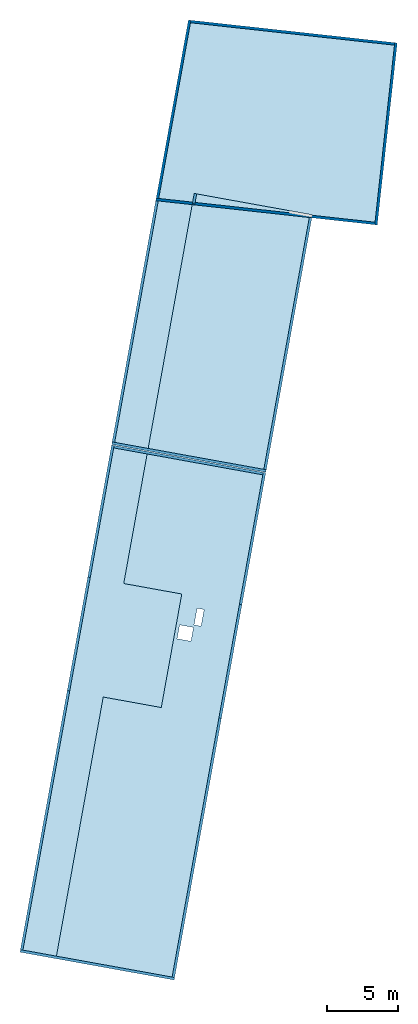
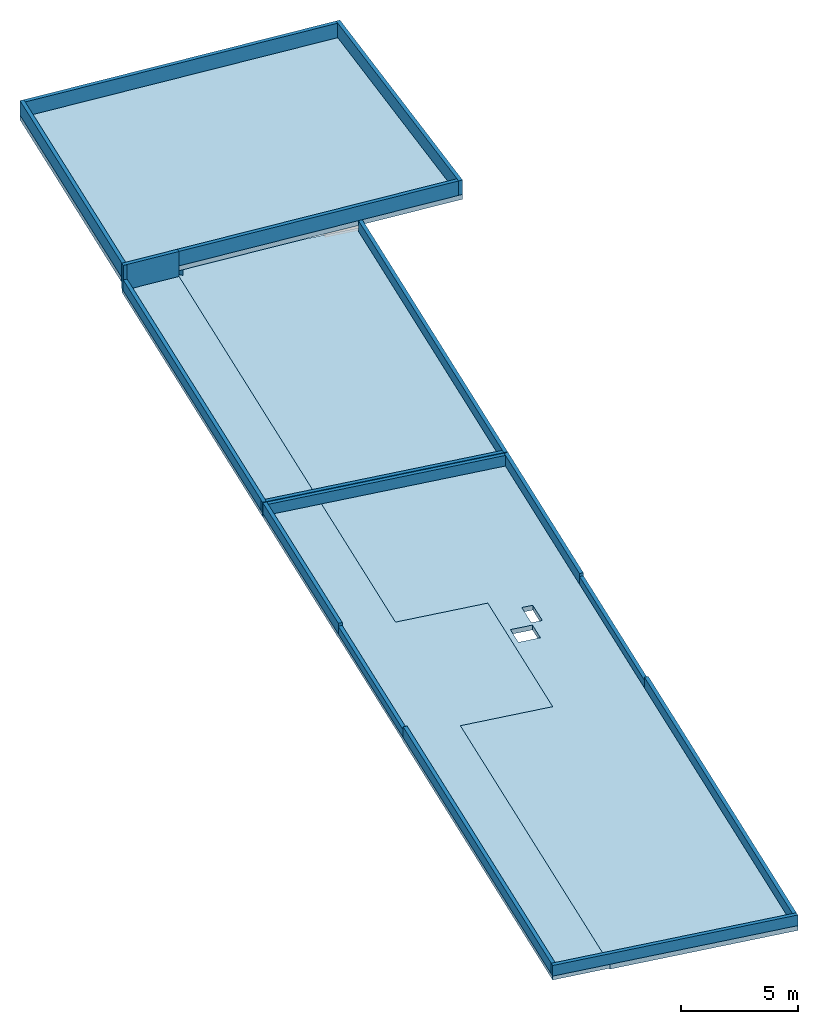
# One storey, part 1 of 2: 17 walls, 5 slabs.
"""IFC2X3 building model written with IfcOpenShell, lengths in metres."""

from ifc_helpers import new_model, entity, si_unit, converted_unit, derived_unit, money_unit, direction, frame, origin_with_axes, place, context, subcontext, project, spatial, polyline, outline, extrude, material, layer, layer_set, layer_usage, type_object, element, save


model = new_model("IFC2X3")

# Units and contexts
model_context = context("Model", 3, precision=1e-05, world=origin_with_axes(), true_north=direction((0.0, 1.0)))
body_context = subcontext(model_context, "Body", "Model", "MODEL_VIEW")
ifc_project = project(units=[si_unit("LENGTHUNIT", "METRE"), si_unit("AREAUNIT", "SQUARE_METRE"), si_unit("VOLUMEUNIT", "CUBIC_METRE"), converted_unit("PLANEANGLEUNIT", "DEGREE", entity("IfcPlaneAngleMeasure", 0.0174532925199), si_unit("PLANEANGLEUNIT", "RADIAN"), dimensions=[0, 0, 0, 0, 0, 0, 0]), money_unit("CHF"), converted_unit("TIMEUNIT", "Year", entity("IfcTimeMeasure", 31556926.0), si_unit("TIMEUNIT", "SECOND"), dimensions=[0, 0, 1, 0, 0, 0, 0]), si_unit("MASSUNIT", "GRAM", prefix="KILO"), si_unit("THERMODYNAMICTEMPERATUREUNIT", "DEGREE_CELSIUS"), si_unit("LUMINOUSINTENSITYUNIT", "LUMEN"), si_unit("ENERGYUNIT", "JOULE", prefix="MEGA"), derived_unit("THERMALCONDUCTANCEUNIT", [(si_unit("POWERUNIT", "WATT"), 1), (si_unit("LENGTHUNIT", "METRE"), -1), (si_unit("THERMODYNAMICTEMPERATUREUNIT", "KELVIN"), -1)]), derived_unit("SPECIFICHEATCAPACITYUNIT", [(si_unit("ENERGYUNIT", "JOULE"), 1), (si_unit("MASSUNIT", "GRAM", prefix="KILO"), -1), (si_unit("THERMODYNAMICTEMPERATUREUNIT", "KELVIN"), -1)]), derived_unit("MASSDENSITYUNIT", [(si_unit("MASSUNIT", "GRAM", prefix="KILO"), 1), (si_unit("VOLUMEUNIT", "CUBIC_METRE"), -1)])], contexts=[model_context])

# Site, building, storey
site_placement = place(None, frame((0.0, 0.0, 0.0), z_axis=(0.0, 0.0, 1.0), x_axis=(-0.177771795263, -0.984071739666, 0.0)))
site = spatial("IfcSite", under=ifc_project, at=site_placement, Name="Site", CompositionType="ELEMENT")
building_placement = place(site_placement, origin_with_axes())
building = spatial("IfcBuilding", under=site, at=building_placement, Name="Bâtiment", CompositionType="ELEMENT")
storey_placement = place(building_placement, frame((0.0, 0.0, 6.55), z_axis=(0.0, 0.0, 1.0), x_axis=(1.0, 0.0, 0.0)))
storey = spatial("IfcBuildingStorey", under=building, at=storey_placement, Name="Toit & PM", CompositionType="ELEMENT", Elevation=6.55)

# Slabs
ifc_material_1 = material(Name="_BA banché RAL9007")
ifc_layer_1 = layer(ifc_material_1, 0.25, ventilated="UNKNOWN")
ifc_layer_set_1 = layer_set([ifc_layer_1], Name="_BA banché RAL9007 0.25")
ifc_layer_usage_1 = layer_usage(ifc_layer_set_1, "AXIS3", "NEGATIVE", 0.25)
slab_type_1 = type_object("IfcSlabType", Name="_DalleToit 25+28 gris 530", PredefinedType="FLOOR")
slab_1_placement = place(storey_placement, frame((128.46484123, -156.627151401, -0.25), z_axis=(0.0, 0.0, 1.0), x_axis=(1.0, 0.0, 0.0)))
element("IfcSlab", 1, at=slab_1_placement, inside=storey, type_object=slab_type_1, material=ifc_layer_usage_1, Name="dalle-toiture", PredefinedType="FLOOR", context=body_context, shape_type="SweptSolid", body=[
    extrude(outline(polyline([(0.0, 0.0), (0.0, 8.51000072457), (-18.5400000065, 8.5099999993), (-18.5400000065, -6.99998281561e-10), (0.0, 0.0)])), frame((0.0, 0.0, -0.25), z_axis=(0.0, 0.0, 1.0), x_axis=(1.0, 0.0, 0.0)), (0.0, 0.0, 1.0), 0.25),
])
ifc_layer_usage_2 = layer_usage(ifc_layer_set_1, "AXIS3", "NEGATIVE", 0.25)
slab_2_placement = place(storey_placement, frame((138.014841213, -148.127150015, -0.25), z_axis=(0.0, 0.0, 1.0), x_axis=(1.0, 0.0, 0.0)))
element("IfcSlab", 2, at=slab_2_placement, inside=storey, type_object=slab_type_1, material=ifc_layer_usage_2, Name="dalle-toiture", PredefinedType="FLOOR", context=body_context, shape_type="SweptSolid", body=[
    extrude(outline(polyline([(0.0, 0.0), (0.0, 0.00999945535), (-9.51000004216, 0.00999929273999), (-9.51000004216, -8.50000138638), (-1.29869988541e-07, -8.50000138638), (1.33659995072e-07, -4.32001826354), (8.17500001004, -4.31997820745), (8.17500001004, -8.50000291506), (27.014999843, -8.50000291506), (27.014999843, 0.00999991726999), (8.17500001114, 0.00999959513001), (8.17500001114, 0.0), (0.0, 0.0)]), holes=[polyline([(2.00000001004, -2.57000120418), (2.00000001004, -3.07000120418), (0.80000001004, -3.07000144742), (0.80000001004, -2.57000144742), (2.00000001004, -2.57000120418)]), polyline([(2.17999917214, -4.08000100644), (2.17999917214, -3.08000100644), (3.17999917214, -3.08000100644), (3.17999917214, -4.08000100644), (2.17999917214, -4.08000100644)])]), frame((0.0, 0.0, -0.25), z_axis=(0.0, 0.0, 1.0), x_axis=(1.0, 0.0, 0.0)), (0.0, 0.0, 1.0), 0.25),
])
ifc_layer_usage_3 = layer_usage(ifc_layer_set_1, "AXIS3", "NEGATIVE", 0.25)
slab_3_placement = place(storey_placement, frame((96.8689778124, -144.362338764, 0.3), z_axis=(0.0, 0.0, 1.0), x_axis=(1.0, 0.0, 0.0)))
element("IfcSlab", 3, at=slab_3_placement, inside=storey, type_object=slab_type_1, material=ifc_layer_usage_3, Name="dalle-toiture", PredefinedType="FLOOR", context=body_context, shape_type="SweptSolid", body=[
    extrude(outline(polyline([(0.0, 0.0), (1.03137843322, -14.8547680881), (14.0420504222, -14.8547681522), (13.2713716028, -3.75481229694), (12.9482531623, 0.899007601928), (0.0, 0.0)])), frame((0.0, 0.0, -0.25), z_axis=(0.0, 0.0, 1.0), x_axis=(1.0, 0.0, 0.0)), (0.0, 0.0, 1.0), 0.25),
])
ifc_layer_2 = layer(ifc_material_1, 0.2, ventilated="UNKNOWN")
ifc_layer_set_2 = layer_set([ifc_layer_2], Name="_BA banché RAL9007 0.2")
ifc_layer_usage_4 = layer_usage(ifc_layer_set_2, "AXIS3", "NEGATIVE", 0.2)
slab_type_2 = type_object("IfcSlabType", Name="_DalleToit 20+28 gris 480", PredefinedType="FLOOR")
slab_4_placement = place(storey_placement, frame((138.014841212, -159.217107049, -0.25), z_axis=(0.0, 0.0, 1.0), x_axis=(1.0, 0.0, 0.0)))
element("IfcSlab", 4, at=slab_4_placement, inside=storey, type_object=slab_type_2, material=ifc_layer_usage_4, Name="Dalle-toiture", PredefinedType="FLOOR", context=body_context, shape_type="SweptSolid", body=[
    extrude(outline(polyline([(0.0, 0.0), (0.0, 0.00999999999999), (8.17500001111, 0.00999999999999), (8.17500001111, 0.0), (27.0149998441, 0.0), (27.0149998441, 2.58995411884), (8.17500001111, 2.58995411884), (8.17500001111, 6.76993877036), (1.56740327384e-08, 6.76993813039), (1.1110472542e-08, 2.58995564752), (-9.51000000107, 2.58993802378), (-9.50999998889, 0.0), (0.0, 0.0)])), frame((0.0, 0.0, -0.2), z_axis=(0.0, 0.0, 1.0), x_axis=(1.0, 0.0, 0.0)), (0.0, 0.0, 1.0), 0.2),
])
ifc_layer_usage_5 = layer_usage(ifc_layer_set_2, "AXIS3", "NEGATIVE", 0.2)
slab_5_placement = place(storey_placement, frame((110.550772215, -156.627151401, -0.25), z_axis=(0.0, 0.0, 1.0), x_axis=(1.0, 0.0, 0.0)))
element("IfcSlab", 5, at=slab_5_placement, inside=storey, type_object=slab_type_2, material=ifc_layer_usage_5, Name="dalle-toiture", PredefinedType="FLOOR", context=body_context, shape_type="SweptSolid", body=[
    extrude(outline(polyline([(0.0, 0.0), (0.179822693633, -2.58995564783), (0.360256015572, -2.58995564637), (17.9140690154, -2.58995560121), (17.9140690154, 6.77033540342e-10), (0.0, 0.0)])), frame((0.0, 0.0, -0.2), z_axis=(0.0, 0.0, 1.0), x_axis=(1.0, 0.0, 0.0)), (0.0, 0.0, 1.0), 0.2),
])

# Walls
ifc_layer_3 = layer(ifc_material_1, 0.18, ventilated="UNKNOWN")
ifc_layer_set_3 = layer_set([ifc_layer_3], Name="_BA banché RAL9007 0.18")
ifc_layer_usage_6 = layer_usage(ifc_layer_set_3, "AXIS2", "POSITIVE", -0.18)
wall_type_1 = type_object("IfcWallType", Name="_BA banché RAL9007 180", PredefinedType="NOTDEFINED")
wall_1_placement = place(storey_placement, frame((110.73120555, -156.627151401, -0.25), z_axis=(0.0, 0.0, 1.0), x_axis=(-1.0, 0.0, 0.0)))
element("IfcWallStandardCase", 6, at=wall_1_placement, inside=storey, type_object=wall_type_1, material=ifc_layer_usage_6, Name="M acrot -classe", context=body_context, shape_type="SweptSolid", body=[
    extrude(outline(polyline([(0.0124975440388, -0.18), (0.806364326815, -0.18), (0.806364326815, 0.0), (0.1805476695, 0.0), (0.0124975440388, -0.18)])), origin_with_axes(), (0.0, 0.0, 1.0), 0.3),
])
wall_type_2 = type_object("IfcWallType", Name="_acrotere 230 x 570", PredefinedType="NOTDEFINED")
wall_2_placement = place(storey_placement, frame((165.029841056, -159.217107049, -0.25), z_axis=(0.0, 0.0, 1.0), x_axis=(-1.0, 0.0, 0.0)))
element("IfcWall", 7, at=wall_2_placement, inside=storey, type_object=wall_type_2, material=ifc_material_1, Name="M acrot -classe", context=body_context, shape_type="SweptSolid", body=[
    extrude(outline(polyline([(-0.180114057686, 0.512613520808), (-0.180114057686, 0.0), (0.0, 0.0), (0.0, 0.512613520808), (0.0, 0.532613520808), (0.0, 0.552613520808), (-0.180114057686, 0.552613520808), (-0.180114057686, 0.532613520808), (-0.180114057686, 0.512613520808)])), frame((0.0, 0.0, 0.0), z_axis=(1.0, 0.0, 0.0), x_axis=(0.0, 1.0, 0.0)), (0.0, 0.0, 1.0), 18.839999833),
])
wall_3_placement = place(storey_placement, frame((165.029841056, -159.217107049, -0.25), z_axis=(0.0, 0.0, 1.0), x_axis=(0.0, 1.0, 0.0)))
element("IfcWall", 8, at=wall_3_placement, inside=storey, type_object=wall_type_2, material=ifc_material_1, Name="M acrot -classe", context=body_context, shape_type="SweptSolid", body=[
    extrude(outline(polyline([(-0.180114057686, 0.512613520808), (-0.180114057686, 0.0), (0.0, 0.0), (0.0, 0.512613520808), (0.0, 0.532613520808), (0.0, 0.552613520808), (-0.180114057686, 0.552613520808), (-0.180114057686, 0.532613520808), (-0.180114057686, 0.512613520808)])), frame((0.0, 0.0, 0.0), z_axis=(-1.0, 0.0, 0.0), x_axis=(0.0, -1.0, 0.0)), (0.0, 0.0, -1.0), 11.0999569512),
])
wall_4_placement = place(storey_placement, frame((128.464841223, -159.217106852, -0.25), z_axis=(0.0, 0.0, 1.0), x_axis=(-1.0, 0.0, 0.0)))
element("IfcWall", 9, at=wall_4_placement, inside=storey, type_object=wall_type_2, material=ifc_material_1, Name="M acrot -classe", context=body_context, shape_type="SweptSolid", body=[
    extrude(outline(polyline([(-0.180114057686, 0.512613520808), (-0.180114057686, 0.0), (0.0, 0.0), (0.0, 0.512613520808), (0.0, 0.532613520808), (0.0, 0.552613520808), (-0.180114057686, 0.552613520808), (-0.180114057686, 0.532613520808), (-0.180114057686, 0.512613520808)])), frame((0.0, 0.0, 0.0), z_axis=(1.0, 0.0, 0.0), x_axis=(0.0, 1.0, 0.0)), (0.0, 0.0, 1.0), 17.5538129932),
])
wall_5_placement = place(storey_placement, frame((128.464841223, -148.117151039, -0.25), z_axis=(0.0, 0.0, 1.0), x_axis=(-1.0, -9.60176337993e-10, 0.0)))
element("IfcWall", 10, at=wall_5_placement, inside=storey, type_object=wall_type_2, material=ifc_material_1, Name="M acrot -classe", context=body_context, shape_type="SweptSolid", body=[
    extrude(outline(polyline([(-0.180114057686, 0.512613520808), (-0.180114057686, 0.0), (0.0, 0.0), (0.0, 0.512613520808), (0.0, 0.532613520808), (0.0, 0.552613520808), (-0.180114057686, 0.552613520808), (-0.180114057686, 0.532613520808), (-0.180114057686, 0.512613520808)])), frame((0.0, 0.0, 0.0), z_axis=(-1.0, 0.0, 0.0), x_axis=(0.0, -1.0, 0.0)), (0.0, 0.0, -1.0), 18.3244918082),
])
wall_6_placement = place(storey_placement, frame((138.014841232, -148.117150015, -0.25), z_axis=(0.0, 0.0, 1.0), x_axis=(-1.0, -6.93060843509e-08, 0.0)))
element("IfcWall", 11, at=wall_6_placement, inside=storey, type_object=wall_type_2, material=ifc_material_1, Name="M acrot -classe", context=body_context, shape_type="SweptSolid", body=[
    extrude(outline(polyline([(-0.180114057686, 0.512613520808), (-0.180114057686, 0.0), (0.0, 0.0), (0.0, 0.512613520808), (0.0, 0.532613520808), (0.0, 0.552613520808), (-0.180114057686, 0.552613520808), (-0.180114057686, 0.532613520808), (-0.180114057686, 0.512613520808)])), frame((0.0, 0.0, 0.0), z_axis=(-1.0, 0.0, 0.0), x_axis=(0.0, -1.0, 0.0)), (0.0, 0.0, -1.0), 9.51000000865),
])
wall_7_placement = place(storey_placement, frame((165.029841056, -148.117150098, -0.25), z_axis=(0.0, 0.0, 1.0), x_axis=(-1.0, 0.0, 0.0)))
element("IfcWall", 12, at=wall_7_placement, inside=storey, type_object=wall_type_2, material=ifc_material_1, Name="M acrot -classe", context=body_context, shape_type="SweptSolid", body=[
    extrude(outline(polyline([(-0.180114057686, 0.512613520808), (-0.180114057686, 0.0), (0.0, 0.0), (0.0, 0.512613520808), (0.0, 0.532613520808), (0.0, 0.552613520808), (-0.180114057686, 0.552613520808), (-0.180114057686, 0.532613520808), (-0.180114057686, 0.512613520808)])), frame((0.0, 0.0, 0.0), z_axis=(-1.0, 0.0, 0.0), x_axis=(0.0, -1.0, 0.0)), (0.0, 0.0, -1.0), 18.839999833),
])
wall_8_placement = place(storey_placement, frame((138.014841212, -159.217107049, -0.25), z_axis=(0.0, 0.0, 1.0), x_axis=(-1.0, 0.0, 0.0)))
element("IfcWall", 13, at=wall_8_placement, inside=storey, type_object=wall_type_2, material=ifc_material_1, Name="M acrot -classe", context=body_context, shape_type="SweptSolid", body=[
    extrude(outline(polyline([(-0.180114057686, 0.512613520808), (-0.180114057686, 0.0), (0.0, 0.0), (0.0, 0.512613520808), (0.0, 0.532613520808), (0.0, 0.552613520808), (-0.180114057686, 0.552613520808), (-0.180114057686, 0.532613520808), (-0.180114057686, 0.512613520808)])), frame((0.0, 0.0, 0.0), z_axis=(1.0, 0.0, 0.0), x_axis=(0.0, 1.0, 0.0)), (0.0, 0.0, 1.0), 9.50999998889),
])
wall_type_3 = type_object("IfcWallType", Name="_acrotere ANGLE 230 x 1320", PredefinedType="NOTDEFINED")
wall_9_placement = place(storey_placement, frame((110.91102823, -159.217106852, -0.25), z_axis=(0.0, 0.0, 1.0), x_axis=(-0.0692640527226, 0.997598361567, 0.0)))
element("IfcWall", 14, at=wall_9_placement, inside=storey, type_object=wall_type_3, material=ifc_material_1, Name="M acrot Sud-hall", context=body_context, shape_type="SweptSolid", body=[
    extrude(outline(polyline([(-0.180114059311, 0.0), (0.0, 0.0), (0.0, 1.28261351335), (0.0, 1.28761351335), (0.0, 1.30261351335), (-0.180114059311, 1.30261351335), (-0.180114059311, 1.28261351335), (-0.180114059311, 1.27261351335), (-0.180114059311, 1.26261351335), (-0.180114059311, 0.0)])), frame((0.0, 0.0, 0.0), z_axis=(-1.0, 0.0, 0.0), x_axis=(0.0, -1.0, 0.0)), (0.0, 0.0, -1.0), 2.59619056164),
])
wall_type_4 = type_object("IfcWallType", Name="_acrotere JD 210 x 570", PredefinedType="NOTDEFINED")
wall_10_placement = place(storey_placement, frame((128.464841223, -159.217106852, -0.25), z_axis=(0.0, 0.0, 1.0), x_axis=(0.0, 1.0, 0.0)))
element("IfcWall", 15, at=wall_10_placement, inside=storey, type_object=wall_type_4, material=ifc_material_1, Name="M acrot -classe", context=body_context, shape_type="SweptSolid", body=[
    extrude(outline(polyline([(-0.18, 0.510000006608), (-0.18, 0.0), (0.0, 0.0), (0.0, 0.510000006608), (0.0, 0.550000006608), (-0.18, 0.550000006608), (-0.18, 0.510000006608)])), frame((0.0, 0.0, 0.0), z_axis=(-1.0, 0.0, 0.0), x_axis=(0.0, -1.0, 0.0)), (0.0, 0.0, -1.0), 11.0999558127),
])
wall_11_placement = place(storey_placement, frame((128.504841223, -159.217107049, -0.25), z_axis=(0.0, 0.0, 1.0), x_axis=(0.0, 1.0, 0.0)))
element("IfcWall", 16, at=wall_11_placement, inside=storey, type_object=wall_type_4, material=ifc_material_1, Name="M acrot -classe", context=body_context, shape_type="SweptSolid", body=[
    extrude(outline(polyline([(-0.18, 0.510000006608), (-0.18, 0.0), (0.0, 0.0), (0.0, 0.510000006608), (0.0, 0.550000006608), (-0.18, 0.550000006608), (-0.18, 0.510000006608)])), frame((0.0, 0.0, 0.0), z_axis=(1.0, 0.0, 0.0), x_axis=(0.0, 1.0, 0.0)), (0.0, 0.0, 1.0), 11.0999563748),
])
ifc_material_2 = material(Name="_BA banché MILIEU")
wall_type_5 = type_object("IfcWallType", Name="_acrotere MILIEU 230 x 417", PredefinedType="NOTDEFINED")
wall_12_placement = place(storey_placement, frame((146.189841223, -159.217107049, -0.25), z_axis=(0.0, 0.0, 1.0), x_axis=(-1.0, 0.0, 0.0)))
element("IfcWall", 17, at=wall_12_placement, inside=storey, type_object=wall_type_5, material=ifc_material_2, Name="M acrot milieu", context=body_context, shape_type="SweptSolid", body=[
    extrude(outline(polyline([(-0.18, 0.36), (-0.18, 0.0), (0.0, 0.0), (0.0, 0.36), (0.0, 0.38), (0.0, 0.4), (-0.18, 0.4), (-0.18, 0.38), (-0.18, 0.36)])), frame((0.0, 0.0, 0.0), z_axis=(1.0, 0.0, 0.0), x_axis=(0.0, 1.0, 0.0)), (0.0, 0.0, 1.0), 8.17500001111),
])
wall_13_placement = place(storey_placement, frame((146.189841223, -148.117150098, -0.25), z_axis=(0.0, 0.0, 1.0), x_axis=(-1.0, 1.01202910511e-08, 0.0)))
element("IfcWall", 18, at=wall_13_placement, inside=storey, type_object=wall_type_5, material=ifc_material_2, Name="M acrot milieu", context=body_context, shape_type="SweptSolid", body=[
    extrude(outline(polyline([(-0.18, 0.36), (-0.18, 0.0), (0.0, 0.0), (0.0, 0.36), (0.0, 0.38), (0.0, 0.4), (-0.18, 0.4), (-0.18, 0.38), (-0.18, 0.36)])), frame((0.0, 0.0, 0.0), z_axis=(-1.0, 0.0, 0.0), x_axis=(0.0, -1.0, 0.0)), (0.0, 0.0, -1.0), 8.17499999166),
])
wall_type_6 = type_object("IfcWallType", Name="_acrotere ANGLE 230 x 770", PredefinedType="NOTDEFINED")
wall_14_placement = place(storey_placement, frame((97.9003562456, -159.217106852, 0.3), z_axis=(0.0, 0.0, 1.0), x_axis=(-0.0692640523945, 0.997598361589, 0.0)))
element("IfcWall", 19, at=wall_14_placement, inside=storey, type_object=wall_type_6, material=ifc_material_1, Name="M acrot Nord-hall", context=body_context, shape_type="SweptSolid", body=[
    extrude(outline(polyline([(-0.180114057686, 0.0), (0.0, 0.0), (0.0, 0.732615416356), (0.0, 0.737615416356), (0.0, 0.752615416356), (-0.180114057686, 0.752615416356), (-0.180114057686, 0.732615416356), (-0.180114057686, 0.722615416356), (-0.180114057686, 0.712615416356), (-0.180114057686, 0.0)])), frame((0.0, 0.0, 0.0), z_axis=(1.0, 0.0, 0.0), x_axis=(0.0, 1.0, 0.0)), (0.0, 0.0, 1.0), 14.8905297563),
])
wall_15_placement = place(storey_placement, frame((109.817230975, -143.463331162, 0.3), z_axis=(0.0, 0.0, 1.0), x_axis=(-0.997598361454, -0.0692640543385, 0.0)))
element("IfcWall", 20, at=wall_15_placement, inside=storey, type_object=wall_type_6, material=ifc_material_1, Name="M acrot-Est-hall", context=body_context, shape_type="SweptSolid", body=[
    extrude(outline(polyline([(-0.180114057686, 0.0), (0.0, 0.0), (0.0, 0.732615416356), (0.0, 0.737615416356), (0.0, 0.752615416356), (-0.180114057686, 0.752615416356), (-0.180114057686, 0.732615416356), (-0.180114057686, 0.722615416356), (-0.180114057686, 0.712615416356), (-0.180114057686, 0.0)])), frame((0.0, 0.0, 0.0), z_axis=(-1.0, 0.0, 0.0), x_axis=(0.0, -1.0, 0.0)), (0.0, 0.0, -1.0), 12.9794250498),
])
wall_16_placement = place(storey_placement, frame((110.91102823, -159.217106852, 0.3), z_axis=(0.0, 0.0, 1.0), x_axis=(-1.0, 0.0, 0.0)))
element("IfcWall", 21, at=wall_16_placement, inside=storey, type_object=wall_type_6, material=ifc_material_1, Name="M acrot Ouest-hall", context=body_context, shape_type="SweptSolid", body=[
    extrude(outline(polyline([(-0.180114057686, 0.0), (0.0, 0.0), (0.0, 0.732615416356), (0.0, 0.737615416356), (0.0, 0.752615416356), (-0.180114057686, 0.752615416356), (-0.180114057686, 0.732615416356), (-0.180114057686, 0.722615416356), (-0.180114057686, 0.712615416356), (-0.180114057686, 0.0)])), frame((0.0, 0.0, 0.0), z_axis=(1.0, 0.0, 0.0), x_axis=(0.0, 1.0, 0.0)), (0.0, 0.0, 1.0), 13.0106719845),
])
wall_17_placement = place(storey_placement, frame((110.73120555, -156.627151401, 0.3), z_axis=(0.0, 0.0, 1.0), x_axis=(-0.0692640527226, 0.997598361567, 0.0)))
element("IfcWall", 22, at=wall_17_placement, inside=storey, type_object=wall_type_6, material=ifc_material_1, Name="M acrot Sud-hall", context=body_context, shape_type="SweptSolid", body=[
    extrude(outline(polyline([(-0.180114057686, 0.0), (0.0, 0.0), (0.0, 0.732615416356), (0.0, 0.737615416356), (0.0, 0.752615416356), (-0.180114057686, 0.752615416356), (-0.180114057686, 0.732615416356), (-0.180114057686, 0.722615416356), (-0.180114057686, 0.712615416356), (-0.180114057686, 0.0)])), frame((0.0, 0.0, 0.0), z_axis=(-1.0, 0.0, 0.0), x_axis=(0.0, -1.0, 0.0)), (0.0, 0.0, -1.0), 13.195511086),
])

save(model, "model.ifc")
